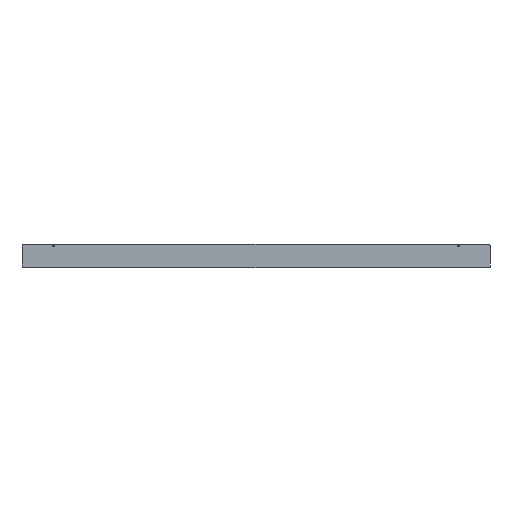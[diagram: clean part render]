
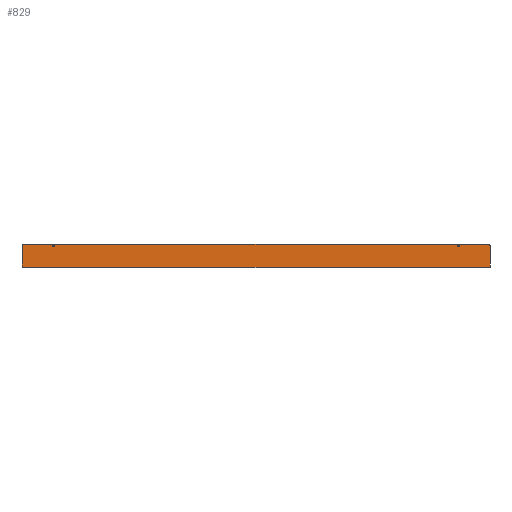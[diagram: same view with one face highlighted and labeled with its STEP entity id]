
A CAD part, top view. The second image highlights one B-rep face of the part: STEP entity #829.
In plain terms, the highlighted planar face has unit normal (0, 0, 1).
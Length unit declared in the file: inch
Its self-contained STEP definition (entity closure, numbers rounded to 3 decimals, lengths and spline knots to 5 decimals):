
#219=CARTESIAN_POINT('',(29.625,1.5,0.055));
#220=VERTEX_POINT('',#219);
#221=CARTESIAN_POINT('',(29.75,1.375,0.055));
#222=VERTEX_POINT('',#221);
#223=CARTESIAN_POINT('',(29.625,1.375,0.055));
#224=DIRECTION('',(0.0,0.0,-1.0));
#225=DIRECTION('',(0.707,0.707,0.0));
#226=AXIS2_PLACEMENT_3D('',#223,#224,#225);
#227=CIRCLE('',#226,0.125);
#228=EDGE_CURVE('',#220,#222,#227,.T.);
#270=CARTESIAN_POINT('',(-29.625,1.5,0.055));
#271=VERTEX_POINT('',#270);
#278=CARTESIAN_POINT('',(-29.625,1.5,0.055));
#279=DIRECTION('',(1.0,0.0,0.0));
#280=VECTOR('',#279,59.25);
#281=LINE('',#278,#280);
#282=EDGE_CURVE('',#271,#220,#281,.T.);
#355=CARTESIAN_POINT('',(-29.75,1.375,0.055));
#356=VERTEX_POINT('',#355);
#357=CARTESIAN_POINT('',(-29.625,1.375,0.055));
#358=DIRECTION('',(0.0,0.0,-1.0));
#359=DIRECTION('',(-0.707,0.707,0.0));
#360=AXIS2_PLACEMENT_3D('',#357,#358,#359);
#361=CIRCLE('',#360,0.125);
#362=EDGE_CURVE('',#356,#271,#361,.T.);
#382=CARTESIAN_POINT('',(-29.75,-1.414,0.055));
#383=VERTEX_POINT('',#382);
#390=CARTESIAN_POINT('',(-29.75,-1.414,0.055));
#391=DIRECTION('',(0.0,1.0,0.0));
#392=VECTOR('',#391,2.789);
#393=LINE('',#390,#392);
#394=EDGE_CURVE('',#383,#356,#393,.T.);
#620=CARTESIAN_POINT('',(-25.8385,1.25,0.055));
#621=VERTEX_POINT('',#620);
#622=CARTESIAN_POINT('',(-25.75,1.25,0.055));
#623=DIRECTION('',(0.0,0.0,-1.0));
#624=DIRECTION('',(1.0,0.0,0.0));
#625=AXIS2_PLACEMENT_3D('',#622,#623,#624);
#626=CIRCLE('',#625,0.0885);
#627=EDGE_CURVE('',#621,#621,#626,.T.);
#640=CARTESIAN_POINT('',(25.6615,1.25,0.055));
#641=VERTEX_POINT('',#640);
#642=CARTESIAN_POINT('',(25.75,1.25,0.055));
#643=DIRECTION('',(0.0,0.0,-1.0));
#644=DIRECTION('',(1.0,0.0,0.0));
#645=AXIS2_PLACEMENT_3D('',#642,#643,#644);
#646=CIRCLE('',#645,0.0885);
#647=EDGE_CURVE('',#641,#641,#646,.T.);
#709=CARTESIAN_POINT('',(29.75,-1.414,0.055));
#710=VERTEX_POINT('',#709);
#783=CARTESIAN_POINT('',(-29.75,-1.414,0.055));
#784=DIRECTION('',(1.0,0.0,0.0));
#785=VECTOR('',#784,59.5);
#786=LINE('',#783,#785);
#787=EDGE_CURVE('',#383,#710,#786,.T.);
#799=CARTESIAN_POINT('',(29.75,1.375,0.055));
#800=DIRECTION('',(0.0,-1.0,0.0));
#801=VECTOR('',#800,2.789);
#802=LINE('',#799,#801);
#803=EDGE_CURVE('',#222,#710,#802,.T.);
#810=CARTESIAN_POINT('',(0.0,0.,0.055));
#811=DIRECTION('',(0.0,0.0,1.0));
#812=DIRECTION('',(1.0,0.0,0.0));
#813=AXIS2_PLACEMENT_3D('',#810,#811,#812);
#814=PLANE('',#813);
#815=ORIENTED_EDGE('',*,*,#228,.F.);
#816=ORIENTED_EDGE('',*,*,#282,.F.);
#817=ORIENTED_EDGE('',*,*,#362,.F.);
#818=ORIENTED_EDGE('',*,*,#394,.F.);
#819=ORIENTED_EDGE('',*,*,#787,.T.);
#820=ORIENTED_EDGE('',*,*,#803,.F.);
#821=EDGE_LOOP('',(#815,#816,#817,#818,#819,#820));
#822=FACE_OUTER_BOUND('',#821,.T.);
#823=ORIENTED_EDGE('',*,*,#627,.T.);
#824=EDGE_LOOP('',(#823));
#825=FACE_BOUND('',#824,.T.);
#826=ORIENTED_EDGE('',*,*,#647,.T.);
#827=EDGE_LOOP('',(#826));
#828=FACE_BOUND('',#827,.T.);
#829=ADVANCED_FACE('',(#822,#825,#828),#814,.T.);
